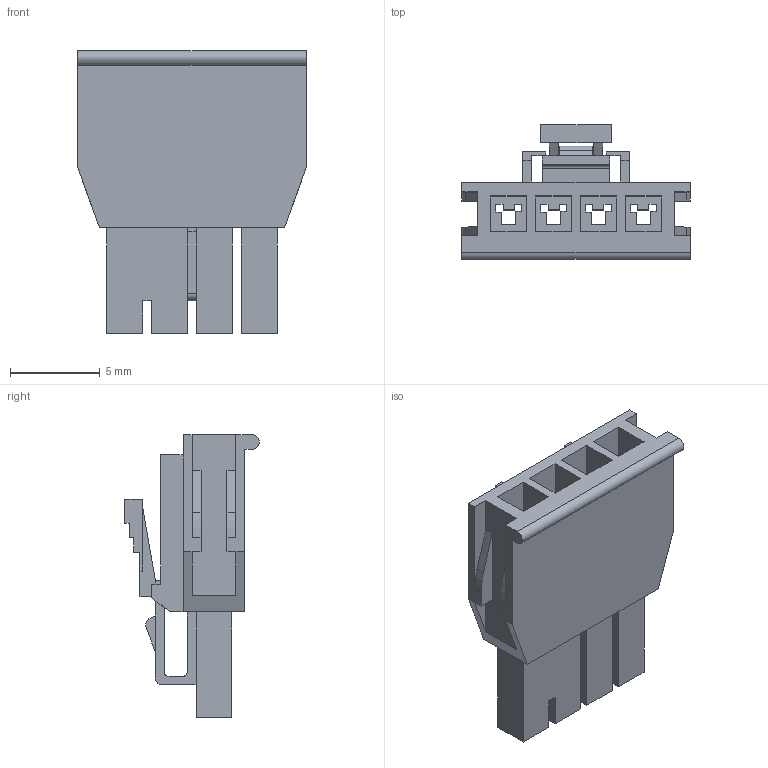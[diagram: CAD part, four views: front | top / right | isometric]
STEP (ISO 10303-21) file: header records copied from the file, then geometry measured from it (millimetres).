
FILE_DESCRIPTION (( 'STEP AP203' ), '1' );
FILE_NAME ('4671-1X04MHB0B-1140414.STEP', '2025-04-15T09:04:15', ( '' ), ( '' ), 'SwSTEP 2.0', 'SolidWorks 2020', '' );
FILE_SCHEMA (( 'CONFIG_CONTROL_DESIGN' ));
Length unit declared in the file: millimetre
Products named in the file (2): 4671-1X04MHB0B-1140414
Assembly tree (1 placements, depth 2):
  4671-1X04MHB0B-1140414
    4671-1X04MHB0B-1140414
Bounding box: 12.7 x 7.49 x 15.7 mm (x, y, z)
Volume: 365.6 mm3; surface area: 1244 mm2
Topology: 1 solids, 1 shells, 189 faces, 544 edges, 358 vertices
Faces by surface type: plane 179, cylinder 10
Entity records: 6290 total; most frequent: CARTESIAN_POINT 1095, ORIENTED_EDGE 1088, DIRECTION 950, EDGE_CURVE 544, LINE 524, VECTOR 524, VERTEX_POINT 358, AXIS2_PLACEMENT_3D 213
